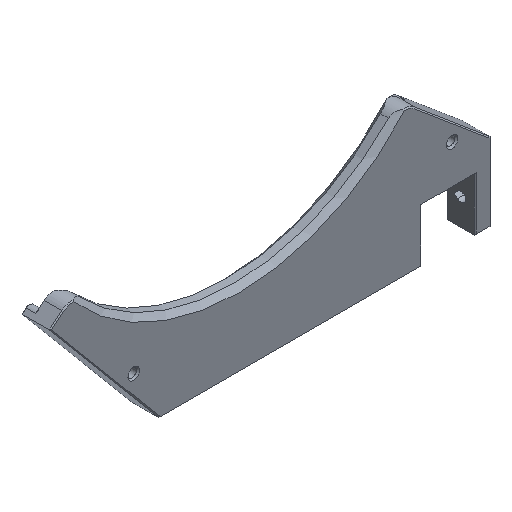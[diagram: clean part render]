
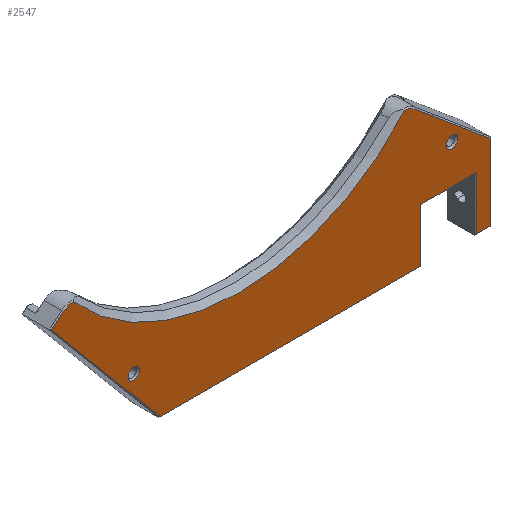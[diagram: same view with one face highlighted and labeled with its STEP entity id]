
A CAD part, isometric view. The second image highlights one B-rep face of the part: STEP entity #2547.
In plain terms, the highlighted planar face has unit normal (0, -1, 0).
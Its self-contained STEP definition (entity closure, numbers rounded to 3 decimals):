
#97=FACE_BOUND('',#409,.T.);
#98=FACE_BOUND('',#410,.T.);
#134=PLANE('',#2802);
#242=FACE_OUTER_BOUND('',#408,.T.);
#408=EDGE_LOOP('',(#2048,#2049,#2050,#2051,#2052,#2053,#2054,#2055,#2056,
#2057,#2058,#2059));
#409=EDGE_LOOP('',(#2060));
#410=EDGE_LOOP('',(#2061));
#630=LINE('',#4226,#843);
#631=LINE('',#4228,#844);
#632=LINE('',#4230,#845);
#633=LINE('',#4232,#846);
#634=LINE('',#4234,#847);
#635=LINE('',#4236,#848);
#636=LINE('',#4238,#849);
#637=LINE('',#4240,#850);
#638=LINE('',#4242,#851);
#843=VECTOR('',#3412,10.);
#844=VECTOR('',#3413,10.);
#845=VECTOR('',#3414,10.);
#846=VECTOR('',#3415,10.);
#847=VECTOR('',#3416,10.);
#848=VECTOR('',#3417,10.);
#849=VECTOR('',#3418,10.);
#850=VECTOR('',#3419,10.);
#851=VECTOR('',#3420,10.);
#996=CIRCLE('',#2801,2.2);
#997=CIRCLE('',#2803,5.6);
#998=CIRCLE('',#2804,5.6);
#999=CIRCLE('',#2805,83.);
#1000=CIRCLE('',#2806,2.2);
#1212=VERTEX_POINT('',#4218);
#1213=VERTEX_POINT('',#4222);
#1214=VERTEX_POINT('',#4223);
#1215=VERTEX_POINT('',#4225);
#1216=VERTEX_POINT('',#4227);
#1217=VERTEX_POINT('',#4229);
#1218=VERTEX_POINT('',#4231);
#1219=VERTEX_POINT('',#4233);
#1220=VERTEX_POINT('',#4235);
#1221=VERTEX_POINT('',#4237);
#1222=VERTEX_POINT('',#4239);
#1223=VERTEX_POINT('',#4241);
#1224=VERTEX_POINT('',#4243);
#1225=VERTEX_POINT('',#4246);
#1511=EDGE_CURVE('',#1212,#1212,#996,.T.);
#1513=EDGE_CURVE('',#1213,#1214,#997,.T.);
#1514=EDGE_CURVE('',#1215,#1213,#630,.T.);
#1515=EDGE_CURVE('',#1216,#1215,#631,.T.);
#1516=EDGE_CURVE('',#1217,#1216,#632,.T.);
#1517=EDGE_CURVE('',#1218,#1217,#633,.T.);
#1518=EDGE_CURVE('',#1219,#1218,#634,.T.);
#1519=EDGE_CURVE('',#1220,#1219,#635,.T.);
#1520=EDGE_CURVE('',#1221,#1220,#636,.T.);
#1521=EDGE_CURVE('',#1222,#1221,#637,.T.);
#1522=EDGE_CURVE('',#1223,#1222,#638,.T.);
#1523=EDGE_CURVE('',#1224,#1223,#998,.T.);
#1524=EDGE_CURVE('',#1214,#1224,#999,.T.);
#1525=EDGE_CURVE('',#1225,#1225,#1000,.T.);
#2048=ORIENTED_EDGE('',*,*,#1513,.F.);
#2049=ORIENTED_EDGE('',*,*,#1514,.F.);
#2050=ORIENTED_EDGE('',*,*,#1515,.F.);
#2051=ORIENTED_EDGE('',*,*,#1516,.F.);
#2052=ORIENTED_EDGE('',*,*,#1517,.F.);
#2053=ORIENTED_EDGE('',*,*,#1518,.F.);
#2054=ORIENTED_EDGE('',*,*,#1519,.F.);
#2055=ORIENTED_EDGE('',*,*,#1520,.F.);
#2056=ORIENTED_EDGE('',*,*,#1521,.F.);
#2057=ORIENTED_EDGE('',*,*,#1522,.F.);
#2058=ORIENTED_EDGE('',*,*,#1523,.F.);
#2059=ORIENTED_EDGE('',*,*,#1524,.F.);
#2060=ORIENTED_EDGE('',*,*,#1525,.F.);
#2061=ORIENTED_EDGE('',*,*,#1511,.F.);
#2547=ADVANCED_FACE('',(#242,#97,#98),#134,.F.);
#2801=AXIS2_PLACEMENT_3D('',#4219,#3405,#3406);
#2802=AXIS2_PLACEMENT_3D('',#4221,#3408,#3409);
#2803=AXIS2_PLACEMENT_3D('',#4224,#3410,#3411);
#2804=AXIS2_PLACEMENT_3D('',#4244,#3421,#3422);
#2805=AXIS2_PLACEMENT_3D('',#4245,#3423,#3424);
#2806=AXIS2_PLACEMENT_3D('',#4247,#3425,#3426);
#3405=DIRECTION('center_axis',(0.,-1.,0.));
#3406=DIRECTION('ref_axis',(1.,0.,0.));
#3408=DIRECTION('center_axis',(0.,1.,0.));
#3409=DIRECTION('ref_axis',(1.,0.,0.));
#3410=DIRECTION('center_axis',(0.,1.,0.));
#3411=DIRECTION('ref_axis',(0.053,0.,0.999));
#3412=DIRECTION('',(0.766,0.,0.643));
#3413=DIRECTION('',(-0.643,0.,0.766));
#3414=DIRECTION('',(-1.,0.,0.));
#3415=DIRECTION('',(0.,0.,-1.));
#3416=DIRECTION('',(-1.,0.,0.));
#3417=DIRECTION('',(0.,0.,1.));
#3418=DIRECTION('',(-1.,0.,0.));
#3419=DIRECTION('',(0.,0.,-1.));
#3420=DIRECTION('',(0.766,0.,-0.643));
#3421=DIRECTION('center_axis',(0.,1.,0.));
#3422=DIRECTION('ref_axis',(-0.053,0.,0.999));
#3423=DIRECTION('center_axis',(0.,-1.,0.));
#3424=DIRECTION('ref_axis',(1.,0.,0.));
#3425=DIRECTION('center_axis',(0.,-1.,0.));
#3426=DIRECTION('ref_axis',(1.,0.,0.));
#4218=CARTESIAN_POINT('',(-41.89,-3.5,-89.603));
#4219=CARTESIAN_POINT('Origin',(-39.69,-3.5,-89.603));
#4221=CARTESIAN_POINT('Origin',(0.,-3.5,-70.533));
#4222=CARTESIAN_POINT('',(-66.23,-3.5,-56.096));
#4223=CARTESIAN_POINT('',(-62.344,-3.5,-54.793));
#4224=CARTESIAN_POINT('Origin',(-62.63,-3.5,-60.386));
#4225=CARTESIAN_POINT('',(-70.679,-3.5,-59.829));
#4226=CARTESIAN_POINT('',(-52.729,-3.5,-44.767));
#4227=CARTESIAN_POINT('',(-29.754,-3.5,-108.6));
#4228=CARTESIAN_POINT('',(-32.92,-3.5,-104.828));
#4229=CARTESIAN_POINT('',(68.5,-3.5,-108.6));
#4230=CARTESIAN_POINT('',(34.5,-3.5,-108.6));
#4231=CARTESIAN_POINT('',(68.5,-3.5,-88.5));
#4232=CARTESIAN_POINT('',(68.5,-3.5,-79.766));
#4233=CARTESIAN_POINT('',(89.5,-3.5,-88.5));
#4234=CARTESIAN_POINT('',(44.5,-3.5,-88.5));
#4235=CARTESIAN_POINT('',(89.5,-3.5,-108.6));
#4236=CARTESIAN_POINT('',(89.5,-3.5,-89.766));
#4237=CARTESIAN_POINT('',(94.6,-3.5,-108.6));
#4238=CARTESIAN_POINT('',(47.5,-3.5,-108.6));
#4239=CARTESIAN_POINT('',(94.6,-3.5,-79.901));
#4240=CARTESIAN_POINT('',(94.6,-3.5,-75.124));
#4241=CARTESIAN_POINT('',(66.23,-3.5,-56.096));
#4242=CARTESIAN_POINT('',(51.197,-3.5,-43.482));
#4243=CARTESIAN_POINT('',(62.344,-3.5,-54.793));
#4244=CARTESIAN_POINT('Origin',(62.63,-3.5,-60.386));
#4245=CARTESIAN_POINT('Origin',(0.,-3.5,0.));
#4246=CARTESIAN_POINT('',(78.095,-3.5,-73.903));
#4247=CARTESIAN_POINT('Origin',(80.295,-3.5,-73.903));
